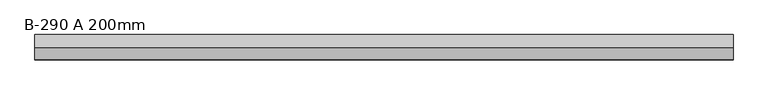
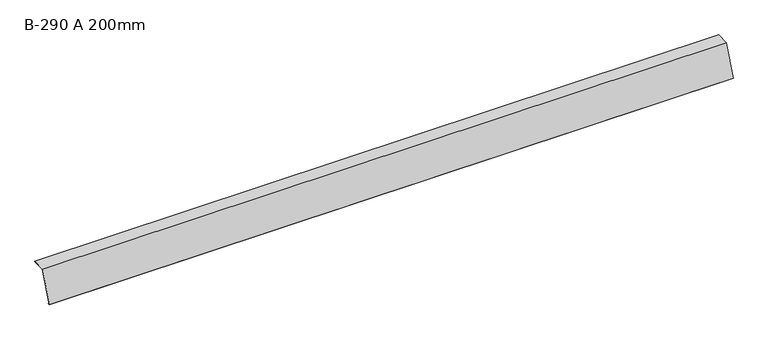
"""IFC4 building model written with IfcOpenShell, lengths in millimetres: proxy geometry, GROVIK_Flashing_Eaves : B-290 A 200mm."""

from ifc_helpers import new_model, si_unit, frame, origin, place, context, project, spatial, polyline, outline, extrude, source, transform, mapped, element, save


def b_290_a_200mm_1fde77d4(model_context):
    return source(origin(), model_context, "Body", "SweptSolid", [
        extrude(outline(polyline([(-0.6918582, 0.9880759), (-72.247902, -185.4217912), (-62.5449447, -183.0025723), (-62.3030228, -183.972868), (-73.8699008, -186.8568146), (-1.3837164, 1.9761518), (78.9530631, 3.3784355), (78.9705155, 2.3785878), (-0.6918582, 0.9880759)])), frame((0.0, 0.0, 0.0), z_axis=(1.0, 0.0, 0.0), x_axis=(0.0, 1.0, 0.0)), (0.0, 0.0, 1.0), 4200.0),
    ])


if __name__ == "__main__":
    model = new_model("IFC4")
    model_context = context("Model", 3, world=origin())
    ifc_project = project(units=[si_unit("LENGTHUNIT", "METRE", prefix="MILLI")], contexts=[model_context])
    site = spatial("IfcSite", under=ifc_project)
    building = spatial("IfcBuilding", under=site)
    placement = place(None, origin())
    b_290_a_200mm_shape = b_290_a_200mm_1fde77d4(model_context)
    element("IfcBuildingElementProxy", 1, Name="GROVIK_Flashing_Eaves : B-290 A 200mm", ObjectType="GROVIK_Flashing_Eaves : B-290 A 200mm", at=placement, inside=building, context=model_context, shape_type="MappedRepresentation", body=[
        mapped(b_290_a_200mm_shape, transform((0.0, 0.0, 0.0), x_axis=(1.0, 0.0, 0.0), y_axis=(0.0, 1.0, 0.0), z_axis=(0.0, 0.0, 1.0))),
    ])
    save(model, "model.ifc")
